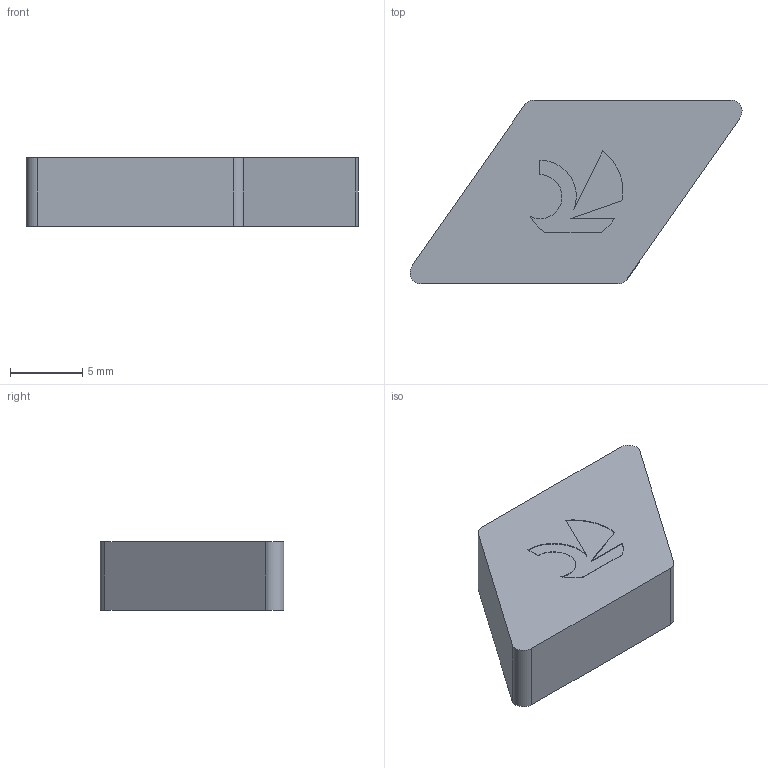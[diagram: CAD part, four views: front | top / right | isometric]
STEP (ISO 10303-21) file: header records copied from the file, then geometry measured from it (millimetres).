
FILE_DESCRIPTION(('no description'),'unknown implementation level');
FILE_NAME('solidn_uLk89VavcfwRn8teZsw5kpEtQ_1.STP',' ',('CIMSOURCE GmbH'),('CADClick - KiM GmbH - www.kimweb.de'),'unknown preprocess','ACIS','unknown authorization');
FILE_SCHEMA(('automotive_design'));
Length unit declared in the file: millimetre
Products named in the file (1): CUT
Bounding box: 22.93 x 12.7 x 4.76 mm (x, y, z)
Volume: 931.8 mm3; surface area: 675.3 mm2
Topology: 1 solids, 1 shells, 22 faces, 57 edges, 38 vertices
Faces by surface type: plane 12, cylinder 10
Entity records: 1366 total; most frequent: DIRECTION 127, CARTESIAN_POINT 120, STYLED_ITEM 118, PRESENTATION_STYLE_ASSIGNMENT 118, COLOUR_RGB 118, ORIENTED_EDGE 114, EDGE_CURVE 57, CURVE_STYLE 57
